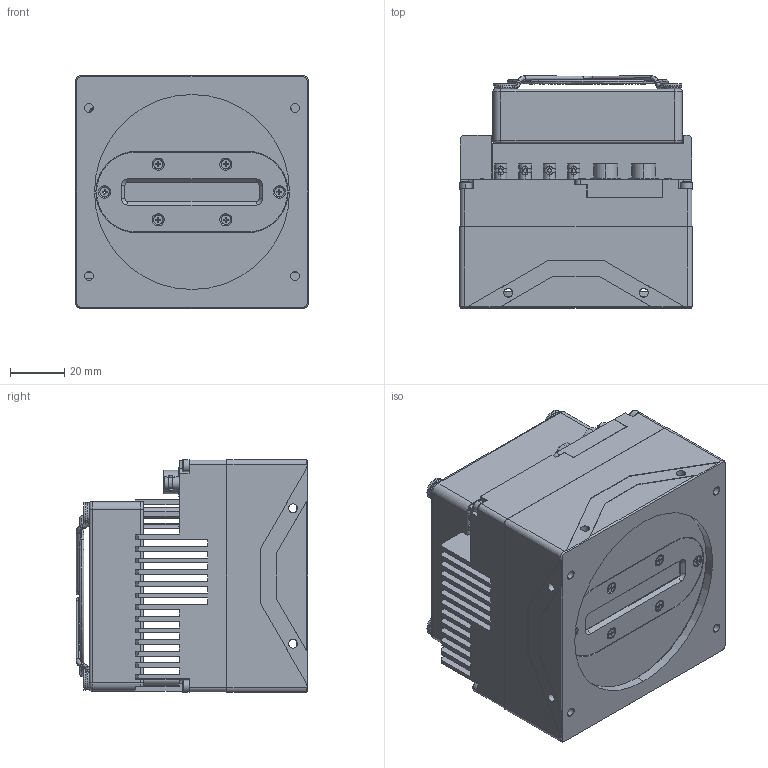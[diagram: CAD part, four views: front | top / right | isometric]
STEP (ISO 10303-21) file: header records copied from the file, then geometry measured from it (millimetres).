
FILE_DESCRIPTION (( 'STEP AP203' ), '1' );
FILE_NAME ('TPH9KCXP.STEP', '2024-07-31T11:39:39', ( 'Windows User' ), ( 'P R C' ), 'SwSTEP 2.0', 'SolidWorks 2017', '' );
FILE_SCHEMA (( 'CONFIG_CONTROL_DESIGN' ));
Products named in the file (1): TPH9KCXP
Bounding box: 86 x 85.59 x 86 mm (x, y, z)
Surface area: 100675.5 mm2 (no closed solid volume)
Topology: 0 solids, 91 shells, 1048 faces, 4188 edges, 3134 vertices
Faces by surface type: plane 510, cylinder 350, cone 83, bspline 78, torus 16, sphere 11
Entity records: 50216 total; most frequent: CARTESIAN_POINT 16805, DIRECTION 6511, ORIENTED_EDGE 6386, EDGE_CURVE 4157, VERTEX_POINT 3122, VECTOR 2541, LINE 2541, AXIS2_PLACEMENT_3D 1985
